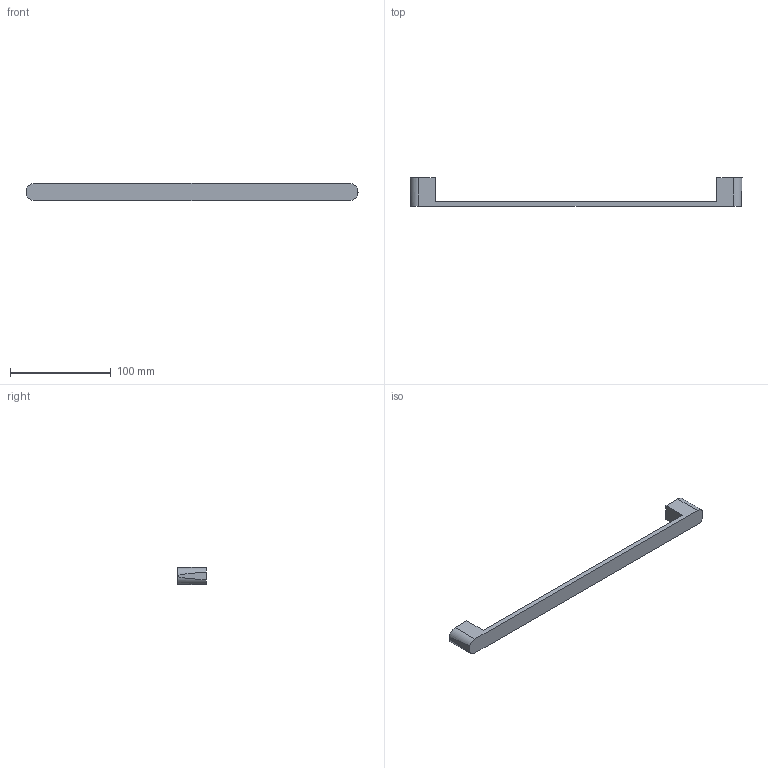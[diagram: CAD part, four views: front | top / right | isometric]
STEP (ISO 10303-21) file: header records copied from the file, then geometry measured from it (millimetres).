
FILE_DESCRIPTION( ( '' ), '1' );
FILE_NAME( 'D:/1.AUTOCAD EXPORT/Group 10/sheet_10_1/9113491.stp', '2013-10-21T11:59:55', ( '' ), ( '' ), ' ', ' ', ' ' );
FILE_SCHEMA( ( 'automotive_design' ) );
Length unit declared in the file: millimetre
Products named in the file (1): 1
Bounding box: 330 x 28 x 17 mm (x, y, z)
Volume: 45431.7 mm3; surface area: 18255.3 mm2
Topology: 1 solids, 1 shells, 20 faces, 46 edges, 30 vertices
Faces by surface type: plane 12, cylinder 8
Entity records: 1138 total; most frequent: DIRECTION 108, STYLED_ITEM 97, PRESENTATION_STYLE_ASSIGNMENT 97, CARTESIAN_POINT 97, COLOUR_RGB 97, ORIENTED_EDGE 92, EDGE_CURVE 46, CURVE_STYLE 46
